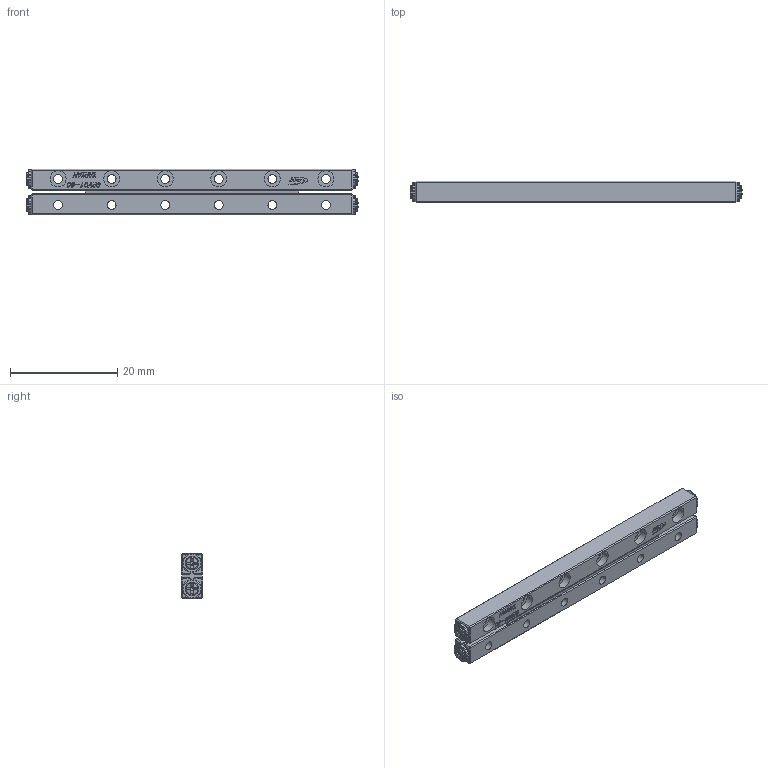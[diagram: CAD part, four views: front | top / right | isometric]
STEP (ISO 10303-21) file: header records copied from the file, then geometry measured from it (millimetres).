
FILE_DESCRIPTION (( 'STEP AP203' ), '1' );
FILE_NAME ('GRV01-60.STEP', '2023-07-31T02:35:02', ( '' ), ( '' ), 'SwSTEP 2.0', 'SolidWorks 2019', '' );
FILE_SCHEMA (( 'CONFIG_CONTROL_DESIGN' ));
Length unit declared in the file: millimetre
Products named in the file (3): GRV01-60; GRV01-60-模糊化軌道; GRVP01-60-模糊化軌道
Assembly tree (3 placements, depth 2):
  GRV01-60
    GRV01-60-模糊化軌道  x2
    GRVP01-60-模糊化軌道
Bounding box: 61.96 x 4 x 8.5 mm (x, y, z)
Volume: 1701.8 mm3; surface area: 2832.4 mm2
Topology: 3 solids, 7 shells, 1334 faces, 3488 edges, 2280 vertices
Faces by surface type: plane 916, bspline 244, cylinder 92, cone 40, torus 38, sphere 4
Full cylindrical faces by diameter (mm): 1.32 x4, 1.65 x12, 2.5 x4, 3 x12, 3.5 x4
Entity records: 25548 total; most frequent: CARTESIAN_POINT 7499, ORIENTED_EDGE 3910, DIRECTION 3085, EDGE_CURVE 1955, VECTOR 1381, LINE 1381, VERTEX_POINT 1296, EDGE_LOOP 897
